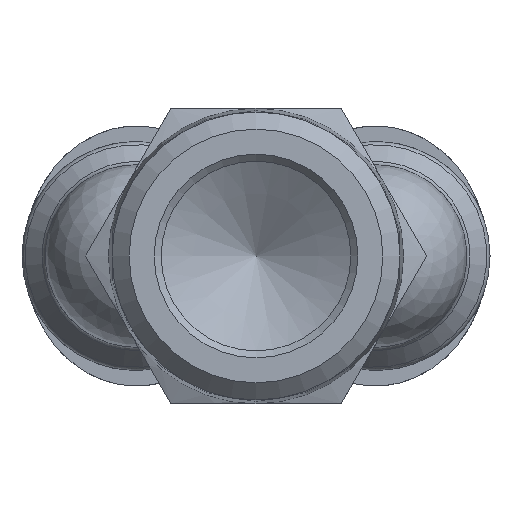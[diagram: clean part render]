
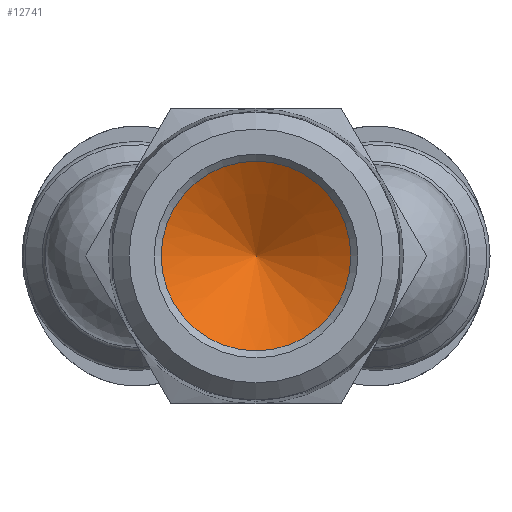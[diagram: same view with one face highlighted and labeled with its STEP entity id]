
A CAD part, front view. The second image highlights one B-rep face of the part: STEP entity #12741.
In plain terms, the highlighted conical face has half-angle 59 degrees and reference radius 3.375 mm.
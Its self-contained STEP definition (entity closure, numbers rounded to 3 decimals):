
#12576=CARTESIAN_POINT('',(0.0,16.0,6.75));
#12577=VERTEX_POINT('',#12576);
#12578=CARTESIAN_POINT('',(0.0,16.0,0.));
#12579=DIRECTION('',(0.0,-1.0,0.0));
#12580=DIRECTION('',(0.0,0.0,1.0));
#12581=AXIS2_PLACEMENT_3D('',#12578,#12579,#12580);
#12582=CIRCLE('',#12581,6.75);
#12583=EDGE_CURVE('',#12577,#12577,#12582,.T.);
#12733=CARTESIAN_POINT('',(0.0,18.028,0.));
#12734=DIRECTION('',(0.0,-1.0,0.));
#12735=DIRECTION('',(0.0,0.0,1.0));
#12736=AXIS2_PLACEMENT_3D('',#12733,#12734,#12735);
#12737=CONICAL_SURFACE('',#12736,3.375,59.);
#12738=ORIENTED_EDGE('',*,*,#12583,.T.);
#12739=EDGE_LOOP('',(#12738));
#12740=FACE_OUTER_BOUND('',#12739,.T.);
#12741=ADVANCED_FACE('',(#12740),#12737,.F.);
